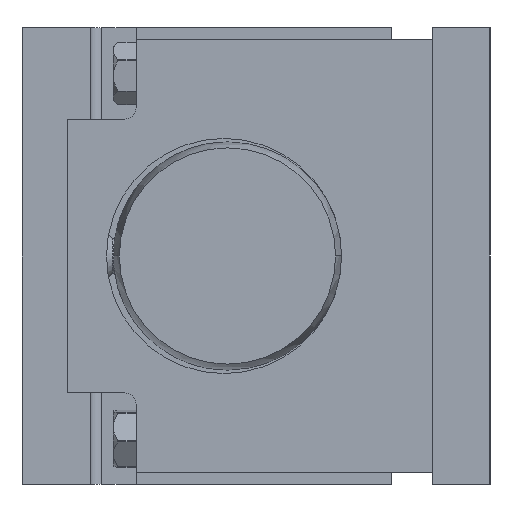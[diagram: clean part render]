
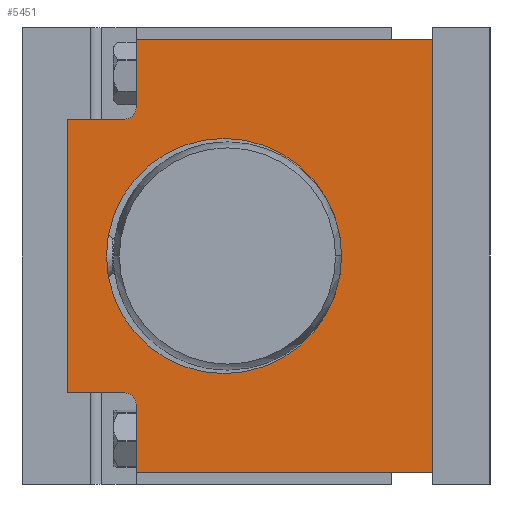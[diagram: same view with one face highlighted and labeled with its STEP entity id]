
A CAD part, left-side view. The second image highlights one B-rep face of the part: STEP entity #5451.
In plain terms, the highlighted planar face has unit normal (-1, 0, 0).
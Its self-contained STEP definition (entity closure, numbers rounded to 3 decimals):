
#414 = EDGE_CURVE ( 'NONE', #16133, #5777, #1116, .T. ) ;
#527 = CARTESIAN_POINT ( 'NONE',  ( -19.5, 50., -95. ) ) ;
#826 = VECTOR ( 'NONE', #18971, 1000. ) ;
#1081 = DIRECTION ( 'NONE',  ( 0., 0., -1. ) ) ;
#1116 = LINE ( 'NONE', #4241, #16873 ) ;
#1147 = EDGE_CURVE ( 'NONE', #18302, #15133, #15140, .T. ) ;
#1605 = VERTEX_POINT ( 'NONE', #15301 ) ;
#1828 = CARTESIAN_POINT ( 'NONE',  ( -19.5, 50., -95. ) ) ;
#1945 = VERTEX_POINT ( 'NONE', #10858 ) ;
#2079 = CARTESIAN_POINT ( 'NONE',  ( -19.5, 80., 60. ) ) ;
#2111 = DIRECTION ( 'NONE',  ( 0., 0., 1. ) ) ;
#2284 = EDGE_CURVE ( 'NONE', #16133, #4571, #8533, .T. ) ;
#2426 = ORIENTED_EDGE ( 'NONE', *, *, #7568, .F. ) ;
#2824 = CARTESIAN_POINT ( 'NONE',  ( -19.5, 11.5, 0. ) ) ;
#2863 = VECTOR ( 'NONE', #9124, 1000. ) ;
#2962 = EDGE_CURVE ( 'NONE', #18970, #1945, #7932, .T. ) ;
#3030 = VECTOR ( 'NONE', #8097, 1000. ) ;
#3196 = ORIENTED_EDGE ( 'NONE', *, *, #1147, .F. ) ;
#3234 = DIRECTION ( 'NONE',  ( 0., 0., -1. ) ) ;
#3238 = EDGE_CURVE ( 'NONE', #8036, #9664, #14194, .T. ) ;
#3484 = EDGE_CURVE ( 'NONE', #5777, #18302, #18876, .T. ) ;
#3977 = AXIS2_PLACEMENT_3D ( 'NONE', #16868, #11281, #17079 ) ;
#4063 = CARTESIAN_POINT ( 'NONE',  ( -19.5, -80., -95. ) ) ;
#4241 = CARTESIAN_POINT ( 'NONE',  ( -19.5, -80., 95. ) ) ;
#4403 = CARTESIAN_POINT ( 'NONE',  ( -19.5, 55., -65. ) ) ;
#4571 = VERTEX_POINT ( 'NONE', #8810 ) ;
#4853 = ORIENTED_EDGE ( 'NONE', *, *, #3238, .T. ) ;
#4972 = CARTESIAN_POINT ( 'NONE',  ( -19.5, 11.5, 0. ) ) ;
#5081 = PLANE ( 'NONE',  #3977 ) ;
#5138 = ORIENTED_EDGE ( 'NONE', *, *, #10597, .T. ) ;
#5184 = DIRECTION ( 'NONE',  ( 0., 1., 0. ) ) ;
#5426 = CARTESIAN_POINT ( 'NONE',  ( -19.5, 55., 60. ) ) ;
#5451 = ADVANCED_FACE ( 'NONE', ( #6540, #12432 ), #5081, .F. ) ;
#5777 = VERTEX_POINT ( 'NONE', #15584 ) ;
#6074 = CARTESIAN_POINT ( 'NONE',  ( -19.5, 11.5, 51.5 ) ) ;
#6540 = FACE_BOUND ( 'NONE', #7272, .T. ) ;
#6687 = CARTESIAN_POINT ( 'NONE',  ( -19.5, 50., 95. ) ) ;
#7272 = EDGE_LOOP ( 'NONE', ( #11912, #2426 ) ) ;
#7324 = VECTOR ( 'NONE', #5184, 1000. ) ;
#7406 = AXIS2_PLACEMENT_3D ( 'NONE', #2824, #13187, #1081 ) ;
#7457 = ORIENTED_EDGE ( 'NONE', *, *, #17758, .F. ) ;
#7522 = LINE ( 'NONE', #16402, #9868 ) ;
#7568 = EDGE_CURVE ( 'NONE', #18802, #1605, #12359, .T. ) ;
#7932 = CIRCLE ( 'NONE', #9489, 5. ) ;
#8036 = VERTEX_POINT ( 'NONE', #5426 ) ;
#8097 = DIRECTION ( 'NONE',  ( 0., 1., 0. ) ) ;
#8298 = CARTESIAN_POINT ( 'NONE',  ( -19.5, -80., -95. ) ) ;
#8533 = LINE ( 'NONE', #11711, #8814 ) ;
#8810 = CARTESIAN_POINT ( 'NONE',  ( -19.5, 50., 65. ) ) ;
#8814 = VECTOR ( 'NONE', #10271, 1000. ) ;
#9124 = DIRECTION ( 'NONE',  ( 0., 0., 1. ) ) ;
#9317 = CARTESIAN_POINT ( 'NONE',  ( -19.5, 80., -95. ) ) ;
#9409 = LINE ( 'NONE', #9317, #2863 ) ;
#9489 = AXIS2_PLACEMENT_3D ( 'NONE', #4403, #16176, #14722 ) ;
#9664 = VERTEX_POINT ( 'NONE', #10849 ) ;
#9685 = VERTEX_POINT ( 'NONE', #15460 ) ;
#9806 = EDGE_LOOP ( 'NONE', ( #11623, #5138, #4853, #17427, #16119, #10623, #7457, #3196, #15349, #17636 ) ) ;
#9868 = VECTOR ( 'NONE', #17866, 1000. ) ;
#10271 = DIRECTION ( 'NONE',  ( 0., 0., -1. ) ) ;
#10597 = EDGE_CURVE ( 'NONE', #4571, #8036, #11436, .T. ) ;
#10623 = ORIENTED_EDGE ( 'NONE', *, *, #2962, .T. ) ;
#10849 = CARTESIAN_POINT ( 'NONE',  ( -19.5, 80., 60. ) ) ;
#10858 = CARTESIAN_POINT ( 'NONE',  ( -19.5, 50., -65. ) ) ;
#10976 = DIRECTION ( 'NONE',  ( -1., 0., 0. ) ) ;
#11281 = DIRECTION ( 'NONE',  ( 1., 0., 0. ) ) ;
#11436 = CIRCLE ( 'NONE', #13894, 5. ) ;
#11623 = ORIENTED_EDGE ( 'NONE', *, *, #2284, .T. ) ;
#11711 = CARTESIAN_POINT ( 'NONE',  ( -19.5, 50., 95. ) ) ;
#11873 = CARTESIAN_POINT ( 'NONE',  ( -19.5, 55., 65. ) ) ;
#11912 = ORIENTED_EDGE ( 'NONE', *, *, #14064, .F. ) ;
#12036 = AXIS2_PLACEMENT_3D ( 'NONE', #4972, #10976, #18130 ) ;
#12083 = CARTESIAN_POINT ( 'NONE',  ( -19.5, 55., -60. ) ) ;
#12359 = CIRCLE ( 'NONE', #12036, 51.5 ) ;
#12432 = FACE_OUTER_BOUND ( 'NONE', #9806, .T. ) ;
#12921 = EDGE_CURVE ( 'NONE', #18970, #9685, #7522, .T. ) ;
#13187 = DIRECTION ( 'NONE',  ( -1., 0., 0. ) ) ;
#13894 = AXIS2_PLACEMENT_3D ( 'NONE', #11873, #17589, #3234 ) ;
#14064 = EDGE_CURVE ( 'NONE', #1605, #18802, #15733, .T. ) ;
#14194 = LINE ( 'NONE', #2079, #7324 ) ;
#14722 = DIRECTION ( 'NONE',  ( 0., 0., -1. ) ) ;
#14930 = VECTOR ( 'NONE', #2111, 1000. ) ;
#15133 = VERTEX_POINT ( 'NONE', #527 ) ;
#15140 = LINE ( 'NONE', #15413, #3030 ) ;
#15301 = CARTESIAN_POINT ( 'NONE',  ( -19.5, 11.5, -51.5 ) ) ;
#15349 = ORIENTED_EDGE ( 'NONE', *, *, #3484, .F. ) ;
#15352 = LINE ( 'NONE', #1828, #14930 ) ;
#15413 = CARTESIAN_POINT ( 'NONE',  ( -19.5, -80., -95. ) ) ;
#15460 = CARTESIAN_POINT ( 'NONE',  ( -19.5, 80., -60. ) ) ;
#15584 = CARTESIAN_POINT ( 'NONE',  ( -19.5, -80., 95. ) ) ;
#15733 = CIRCLE ( 'NONE', #7406, 51.5 ) ;
#16013 = DIRECTION ( 'NONE',  ( 0., -1., 0. ) ) ;
#16119 = ORIENTED_EDGE ( 'NONE', *, *, #12921, .F. ) ;
#16133 = VERTEX_POINT ( 'NONE', #6687 ) ;
#16176 = DIRECTION ( 'NONE',  ( 1., 0., 0. ) ) ;
#16402 = CARTESIAN_POINT ( 'NONE',  ( -19.5, 80., -60. ) ) ;
#16868 = CARTESIAN_POINT ( 'NONE',  ( -19.5, 0., 0. ) ) ;
#16873 = VECTOR ( 'NONE', #16013, 1000. ) ;
#17079 = DIRECTION ( 'NONE',  ( 0., 0., -1. ) ) ;
#17427 = ORIENTED_EDGE ( 'NONE', *, *, #18534, .F. ) ;
#17589 = DIRECTION ( 'NONE',  ( 1., 0., 0. ) ) ;
#17636 = ORIENTED_EDGE ( 'NONE', *, *, #414, .F. ) ;
#17758 = EDGE_CURVE ( 'NONE', #15133, #1945, #15352, .T. ) ;
#17866 = DIRECTION ( 'NONE',  ( 0., 1., 0. ) ) ;
#18130 = DIRECTION ( 'NONE',  ( 0., 0., -1. ) ) ;
#18302 = VERTEX_POINT ( 'NONE', #8298 ) ;
#18534 = EDGE_CURVE ( 'NONE', #9685, #9664, #9409, .T. ) ;
#18802 = VERTEX_POINT ( 'NONE', #6074 ) ;
#18876 = LINE ( 'NONE', #4063, #826 ) ;
#18970 = VERTEX_POINT ( 'NONE', #12083 ) ;
#18971 = DIRECTION ( 'NONE',  ( 0., 0., -1. ) ) ;
